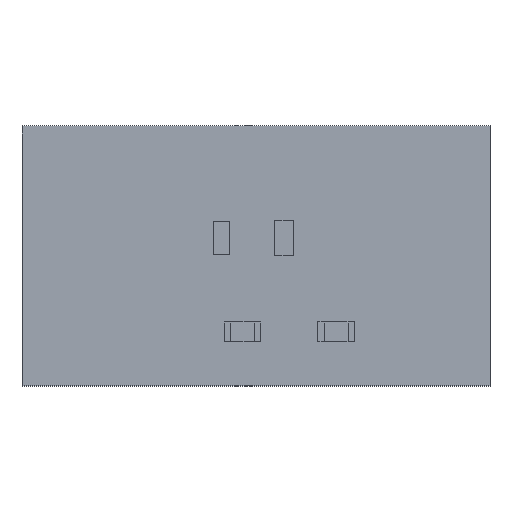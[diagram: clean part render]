
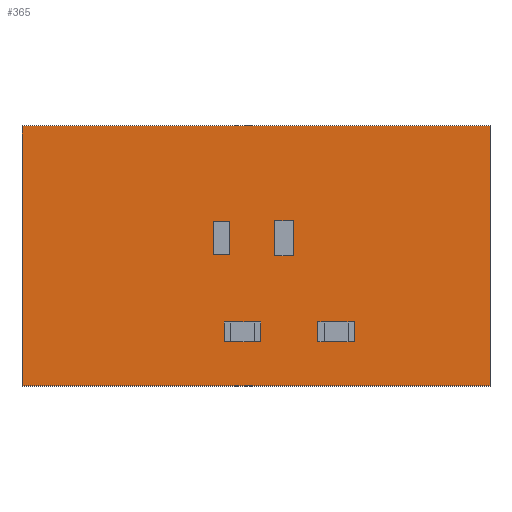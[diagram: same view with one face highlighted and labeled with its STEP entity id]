
A CAD part, top view. The second image highlights one B-rep face of the part: STEP entity #365.
In plain terms, the highlighted planar face has unit normal (0, 0, 1).
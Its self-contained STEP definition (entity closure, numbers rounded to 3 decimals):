
#51 = VERTEX_POINT('',#52);
#52 = CARTESIAN_POINT('',(25.4,112.9,1.646));
#59 = PLANE('',#60);
#60 = AXIS2_PLACEMENT_3D('',#61,#62,#63);
#61 = CARTESIAN_POINT('',(25.4,112.9,0.));
#62 = DIRECTION('',(0.,1.,0.));
#63 = DIRECTION('',(1.,0.,0.));
#71 = PLANE('',#72);
#72 = AXIS2_PLACEMENT_3D('',#73,#74,#75);
#73 = CARTESIAN_POINT('',(25.4,125.4,0.));
#74 = DIRECTION('',(1.,0.,0.));
#75 = DIRECTION('',(0.,-1.,0.));
#83 = EDGE_CURVE('',#51,#84,#86,.T.);
#84 = VERTEX_POINT('',#85);
#85 = CARTESIAN_POINT('',(47.9,112.9,1.646));
#86 = SURFACE_CURVE('',#87,(#91,#98),.PCURVE_S1.);
#87 = LINE('',#88,#89);
#88 = CARTESIAN_POINT('',(25.4,112.9,1.646));
#89 = VECTOR('',#90,1.);
#90 = DIRECTION('',(1.,0.,0.));
#91 = PCURVE('',#59,#92);
#92 = DEFINITIONAL_REPRESENTATION('',(#93),#97);
#93 = LINE('',#94,#95);
#94 = CARTESIAN_POINT('',(0.,-1.646));
#95 = VECTOR('',#96,1.);
#96 = DIRECTION('',(1.,0.));
#97 = ( GEOMETRIC_REPRESENTATION_CONTEXT(2) 
PARAMETRIC_REPRESENTATION_CONTEXT() REPRESENTATION_CONTEXT('2D SPACE',''
  ) );
#98 = PCURVE('',#99,#104);
#99 = PLANE('',#100);
#100 = AXIS2_PLACEMENT_3D('',#101,#102,#103);
#101 = CARTESIAN_POINT('',(25.4,112.9,1.646));
#102 = DIRECTION('',(0.,0.,-1.));
#103 = DIRECTION('',(-1.,0.,0.));
#104 = DEFINITIONAL_REPRESENTATION('',(#105),#109);
#105 = LINE('',#106,#107);
#106 = CARTESIAN_POINT('',(0.,0.));
#107 = VECTOR('',#108,1.);
#108 = DIRECTION('',(-1.,0.));
#109 = ( GEOMETRIC_REPRESENTATION_CONTEXT(2) 
PARAMETRIC_REPRESENTATION_CONTEXT() REPRESENTATION_CONTEXT('2D SPACE',''
  ) );
#127 = PLANE('',#128);
#128 = AXIS2_PLACEMENT_3D('',#129,#130,#131);
#129 = CARTESIAN_POINT('',(47.9,112.9,0.));
#130 = DIRECTION('',(-1.,0.,0.));
#131 = DIRECTION('',(0.,1.,0.));
#169 = EDGE_CURVE('',#84,#170,#172,.T.);
#170 = VERTEX_POINT('',#171);
#171 = CARTESIAN_POINT('',(47.9,125.4,1.646));
#172 = SURFACE_CURVE('',#173,(#177,#184),.PCURVE_S1.);
#173 = LINE('',#174,#175);
#174 = CARTESIAN_POINT('',(47.9,112.9,1.646));
#175 = VECTOR('',#176,1.);
#176 = DIRECTION('',(0.,1.,0.));
#177 = PCURVE('',#127,#178);
#178 = DEFINITIONAL_REPRESENTATION('',(#179),#183);
#179 = LINE('',#180,#181);
#180 = CARTESIAN_POINT('',(0.,-1.646));
#181 = VECTOR('',#182,1.);
#182 = DIRECTION('',(1.,0.));
#183 = ( GEOMETRIC_REPRESENTATION_CONTEXT(2) 
PARAMETRIC_REPRESENTATION_CONTEXT() REPRESENTATION_CONTEXT('2D SPACE',''
  ) );
#184 = PCURVE('',#99,#185);
#185 = DEFINITIONAL_REPRESENTATION('',(#186),#190);
#186 = LINE('',#187,#188);
#187 = CARTESIAN_POINT('',(-22.5,0.));
#188 = VECTOR('',#189,1.);
#189 = DIRECTION('',(0.,1.));
#190 = ( GEOMETRIC_REPRESENTATION_CONTEXT(2) 
PARAMETRIC_REPRESENTATION_CONTEXT() REPRESENTATION_CONTEXT('2D SPACE',''
  ) );
#208 = PLANE('',#209);
#209 = AXIS2_PLACEMENT_3D('',#210,#211,#212);
#210 = CARTESIAN_POINT('',(47.9,125.4,0.));
#211 = DIRECTION('',(0.,-1.,0.));
#212 = DIRECTION('',(-1.,0.,0.));
#245 = EDGE_CURVE('',#170,#246,#248,.T.);
#246 = VERTEX_POINT('',#247);
#247 = CARTESIAN_POINT('',(25.4,125.4,1.646));
#248 = SURFACE_CURVE('',#249,(#253,#260),.PCURVE_S1.);
#249 = LINE('',#250,#251);
#250 = CARTESIAN_POINT('',(47.9,125.4,1.646));
#251 = VECTOR('',#252,1.);
#252 = DIRECTION('',(-1.,0.,0.));
#253 = PCURVE('',#208,#254);
#254 = DEFINITIONAL_REPRESENTATION('',(#255),#259);
#255 = LINE('',#256,#257);
#256 = CARTESIAN_POINT('',(0.,-1.646));
#257 = VECTOR('',#258,1.);
#258 = DIRECTION('',(1.,0.));
#259 = ( GEOMETRIC_REPRESENTATION_CONTEXT(2) 
PARAMETRIC_REPRESENTATION_CONTEXT() REPRESENTATION_CONTEXT('2D SPACE',''
  ) );
#260 = PCURVE('',#99,#261);
#261 = DEFINITIONAL_REPRESENTATION('',(#262),#266);
#262 = LINE('',#263,#264);
#263 = CARTESIAN_POINT('',(-22.5,12.5));
#264 = VECTOR('',#265,1.);
#265 = DIRECTION('',(1.,0.));
#266 = ( GEOMETRIC_REPRESENTATION_CONTEXT(2) 
PARAMETRIC_REPRESENTATION_CONTEXT() REPRESENTATION_CONTEXT('2D SPACE',''
  ) );
#316 = EDGE_CURVE('',#246,#51,#317,.T.);
#317 = SURFACE_CURVE('',#318,(#322,#329),.PCURVE_S1.);
#318 = LINE('',#319,#320);
#319 = CARTESIAN_POINT('',(25.4,125.4,1.646));
#320 = VECTOR('',#321,1.);
#321 = DIRECTION('',(0.,-1.,0.));
#322 = PCURVE('',#71,#323);
#323 = DEFINITIONAL_REPRESENTATION('',(#324),#328);
#324 = LINE('',#325,#326);
#325 = CARTESIAN_POINT('',(0.,-1.646));
#326 = VECTOR('',#327,1.);
#327 = DIRECTION('',(1.,0.));
#328 = ( GEOMETRIC_REPRESENTATION_CONTEXT(2) 
PARAMETRIC_REPRESENTATION_CONTEXT() REPRESENTATION_CONTEXT('2D SPACE',''
  ) );
#329 = PCURVE('',#99,#330);
#330 = DEFINITIONAL_REPRESENTATION('',(#331),#335);
#331 = LINE('',#332,#333);
#332 = CARTESIAN_POINT('',(0.,12.5));
#333 = VECTOR('',#334,1.);
#334 = DIRECTION('',(0.,-1.));
#335 = ( GEOMETRIC_REPRESENTATION_CONTEXT(2) 
PARAMETRIC_REPRESENTATION_CONTEXT() REPRESENTATION_CONTEXT('2D SPACE',''
  ) );
#365 = ADVANCED_FACE('',(#366),#99,.F.);
#366 = FACE_BOUND('',#367,.T.);
#367 = EDGE_LOOP('',(#368,#369,#370,#371));
#368 = ORIENTED_EDGE('',*,*,#83,.T.);
#369 = ORIENTED_EDGE('',*,*,#169,.T.);
#370 = ORIENTED_EDGE('',*,*,#245,.T.);
#371 = ORIENTED_EDGE('',*,*,#316,.T.);
